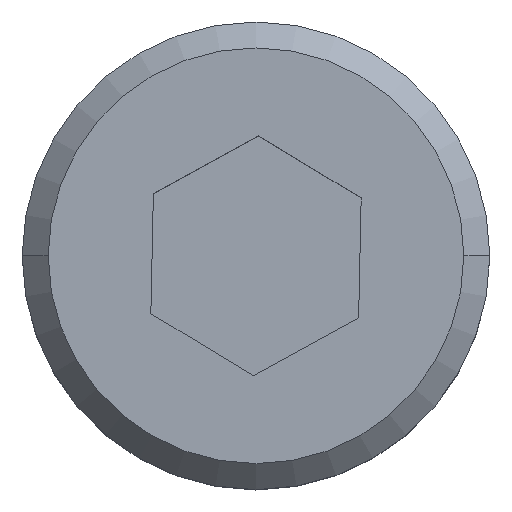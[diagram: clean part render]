
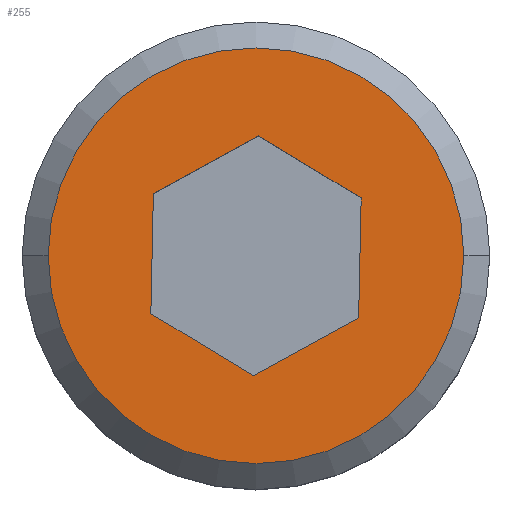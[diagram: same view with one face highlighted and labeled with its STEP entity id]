
A CAD part, top view. The second image highlights one B-rep face of the part: STEP entity #255.
In plain terms, the highlighted planar face has unit normal (0, 0, 1).
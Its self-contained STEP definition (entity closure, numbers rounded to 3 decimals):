
#2 = EDGE_CURVE ( 'NONE', #164, #196, #401, .T. ) ;
#6 = DIRECTION ( 'NONE',  ( 1., 0., 0. ) ) ;
#8 = CARTESIAN_POINT ( 'NONE',  ( -4.048, -2.224, 10. ) ) ;
#15 = ORIENTED_EDGE ( 'NONE', *, *, #318, .F. ) ;
#21 = CARTESIAN_POINT ( 'NONE',  ( 4.048, 2.224, 10. ) ) ;
#22 = EDGE_CURVE ( 'NONE', #196, #36, #111, .T. ) ;
#24 = ORIENTED_EDGE ( 'NONE', *, *, #227, .T. ) ;
#31 = CARTESIAN_POINT ( 'NONE',  ( -0.098, -4.618, 10. ) ) ;
#36 = VERTEX_POINT ( 'NONE', #296 ) ;
#44 = CARTESIAN_POINT ( 'NONE',  ( -3.95, 2.393, 10. ) ) ;
#49 = DIRECTION ( 'NONE',  ( 1., 0., 0. ) ) ;
#53 = VERTEX_POINT ( 'NONE', #129 ) ;
#61 = VECTOR ( 'NONE', #74, 1000. ) ;
#63 = CARTESIAN_POINT ( 'NONE',  ( -0.098, -4.618, 10. ) ) ;
#66 = FACE_BOUND ( 'NONE', #141, .T. ) ;
#67 = VECTOR ( 'NONE', #133, 1000. ) ;
#68 = DIRECTION ( 'NONE',  ( 0.021, 1., 0. ) ) ;
#73 = CIRCLE ( 'NONE', #245, 8. ) ;
#74 = DIRECTION ( 'NONE',  ( 0.855, -0.518, 0. ) ) ;
#77 = DIRECTION ( 'NONE',  ( 0., 0., 1. ) ) ;
#90 = DIRECTION ( 'NONE',  ( -0.876, -0.482, 0. ) ) ;
#96 = DIRECTION ( 'NONE',  ( 0.876, 0.482, 0. ) ) ;
#104 = VERTEX_POINT ( 'NONE', #260 ) ;
#111 = LINE ( 'NONE', #63, #308 ) ;
#129 = CARTESIAN_POINT ( 'NONE',  ( -8., 0., 10. ) ) ;
#130 = VERTEX_POINT ( 'NONE', #408 ) ;
#131 = DIRECTION ( 'NONE',  ( 0., 0., 1. ) ) ;
#132 = CARTESIAN_POINT ( 'NONE',  ( 0.098, 4.618, 10. ) ) ;
#133 = DIRECTION ( 'NONE',  ( -0.021, -1., 0. ) ) ;
#138 = EDGE_CURVE ( 'NONE', #36, #370, #166, .T. ) ;
#141 = EDGE_LOOP ( 'NONE', ( #443, #15, #426, #252, #151, #336 ) ) ;
#151 = ORIENTED_EDGE ( 'NONE', *, *, #2, .F. ) ;
#158 = CARTESIAN_POINT ( 'NONE',  ( 4.048, 2.224, 10. ) ) ;
#163 = PLANE ( 'NONE',  #369 ) ;
#164 = VERTEX_POINT ( 'NONE', #413 ) ;
#166 = LINE ( 'NONE', #185, #429 ) ;
#170 = CARTESIAN_POINT ( 'NONE',  ( 0., 0., 10. ) ) ;
#183 = LINE ( 'NONE', #251, #67 ) ;
#185 = CARTESIAN_POINT ( 'NONE',  ( 3.95, -2.393, 10. ) ) ;
#187 = EDGE_LOOP ( 'NONE', ( #24, #405 ) ) ;
#196 = VERTEX_POINT ( 'NONE', #31 ) ;
#203 = AXIS2_PLACEMENT_3D ( 'NONE', #275, #131, #6 ) ;
#214 = VERTEX_POINT ( 'NONE', #44 ) ;
#227 = EDGE_CURVE ( 'NONE', #53, #104, #73, .T. ) ;
#245 = AXIS2_PLACEMENT_3D ( 'NONE', #170, #77, #49 ) ;
#251 = CARTESIAN_POINT ( 'NONE',  ( -3.95, 2.393, 10. ) ) ;
#252 = ORIENTED_EDGE ( 'NONE', *, *, #22, .F. ) ;
#255 = ADVANCED_FACE ( 'NONE', ( #379, #66 ), #163, .T. ) ;
#257 = VECTOR ( 'NONE', #90, 1000. ) ;
#258 = EDGE_CURVE ( 'NONE', #104, #53, #348, .T. ) ;
#260 = CARTESIAN_POINT ( 'NONE',  ( 8., 0., 10. ) ) ;
#266 = LINE ( 'NONE', #132, #257 ) ;
#275 = CARTESIAN_POINT ( 'NONE',  ( 0., 0., 10. ) ) ;
#287 = EDGE_CURVE ( 'NONE', #214, #164, #183, .T. ) ;
#291 = EDGE_CURVE ( 'NONE', #130, #214, #266, .T. ) ;
#296 = CARTESIAN_POINT ( 'NONE',  ( 3.95, -2.393, 10. ) ) ;
#299 = DIRECTION ( 'NONE',  ( -0.855, 0.518, 0. ) ) ;
#308 = VECTOR ( 'NONE', #96, 1000. ) ;
#318 = EDGE_CURVE ( 'NONE', #370, #130, #421, .T. ) ;
#336 = ORIENTED_EDGE ( 'NONE', *, *, #287, .F. ) ;
#338 = VECTOR ( 'NONE', #299, 1000. ) ;
#348 = CIRCLE ( 'NONE', #203, 8. ) ;
#360 = CARTESIAN_POINT ( 'NONE',  ( 0., 0., 10. ) ) ;
#365 = DIRECTION ( 'NONE',  ( 1., 0., 0. ) ) ;
#369 = AXIS2_PLACEMENT_3D ( 'NONE', #360, #448, #365 ) ;
#370 = VERTEX_POINT ( 'NONE', #21 ) ;
#379 = FACE_OUTER_BOUND ( 'NONE', #187, .T. ) ;
#401 = LINE ( 'NONE', #8, #61 ) ;
#405 = ORIENTED_EDGE ( 'NONE', *, *, #258, .T. ) ;
#408 = CARTESIAN_POINT ( 'NONE',  ( 0.098, 4.618, 10. ) ) ;
#413 = CARTESIAN_POINT ( 'NONE',  ( -4.048, -2.224, 10. ) ) ;
#421 = LINE ( 'NONE', #158, #338 ) ;
#426 = ORIENTED_EDGE ( 'NONE', *, *, #138, .F. ) ;
#429 = VECTOR ( 'NONE', #68, 1000. ) ;
#443 = ORIENTED_EDGE ( 'NONE', *, *, #291, .F. ) ;
#448 = DIRECTION ( 'NONE',  ( 0., 0., 1. ) ) ;
